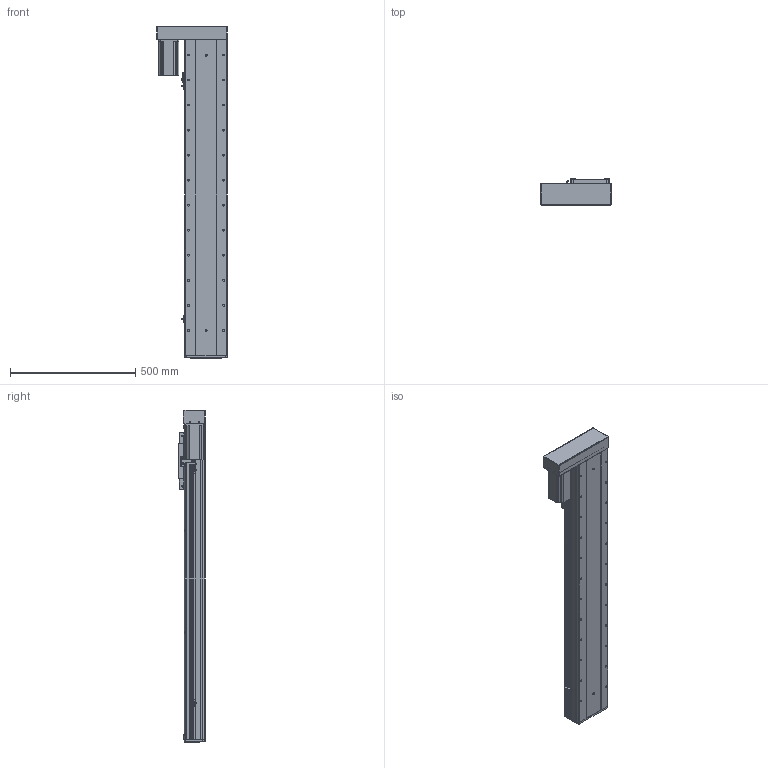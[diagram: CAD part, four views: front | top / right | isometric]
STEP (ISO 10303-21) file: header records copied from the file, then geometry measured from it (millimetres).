
FILE_DESCRIPTION (( 'STEP AP203' ), '1' );
FILE_NAME ('RY170F-L2020-300-LK.SLDASM_950.step', '2021-03-02T09:00:52', ( '盈信电脑' ), ( '东莞市道滘镇水果街19号' ), 'SwSTEP 2.0', 'SolidWorks 2012', '' );
FILE_SCHEMA (( 'CONFIG_CONTROL_DESIGN' ));
Length unit declared in the file: millimetre
Products named in the file (20): RY170F酘衵殏萇儂欶; 怢湛750W萇儂ㄗ80遺ㄘ; RY170F-L2020-300-LK.SLDASM_950; 滅袉蝶18-24; RY170F-酘衵殏萇儂釱; 侐源滅袉蝶; RY170F-蛌殏萇儂假蚾啣; RY170F-揤踡謫假蚾粣; RY170F-詩湍揤踡輸; RY170F俋离覜茼え; 覜茼ん672; RY170F-綴裔啣; 滅袉蝶18-10; RY100F-詩湍揤踡謫; RY170F-300眻蟀倰第奻裔啣-LK_950; RY170F-300眻蟀倰第菁釱-LK_950; RY170F-丝杆铝滑块连接板; RY170F-佪裝臏賑輸20蹟譫; RY170F-滅鳥奻裔; RY170F-300眻蟀祥凄詩湍-LK_950
Assembly tree (24 placements, depth 2):
  RY170F-L2020-300-LK.SLDASM_950
    RY170F-滅鳥奻裔
    RY170F-300眻蟀祥凄詩湍-LK_950
    RY170F-300眻蟀倰第菁釱-LK_950
    RY170F-佪裝臏賑輸20蹟譫
    RY170F-丝杆铝滑块连接板
    RY170F-300眻蟀倰第奻裔啣-LK_950  x2
    滅袉蝶18-10
    RY100F-詩湍揤踡謫
    RY170F-綴裔啣
    覜茼ん672  x3
    RY170F俋离覜茼え
    RY170F-揤踡謫假蚾粣
    RY170F-詩湍揤踡輸  x2
    滅袉蝶18-24
    侐源滅袉蝶  x2
    RY170F-酘衵殏萇儂釱
    RY170F-蛌殏萇儂假蚾啣
    怢湛750W萇儂ㄗ80遺ㄘ
    RY170F酘衵殏萇儂欶
Bounding box: 283 x 107 x 1326 mm (x, y, z)
Volume: 7654931.6 mm3; surface area: 2513376.1 mm2
Topology: 24 solids, 24 shells, 1905 faces, 5270 edges, 3328 vertices
Faces by surface type: cylinder 909, plane 760, cone 228, bspline 8
Entity records: 54591 total; most frequent: CARTESIAN_POINT 10948, DIRECTION 8891, ORIENTED_EDGE 8432, EDGE_CURVE 4216, AXIS2_PLACEMENT_3D 3221, VERTEX_POINT 2748, VECTOR 2449, LINE 2449
